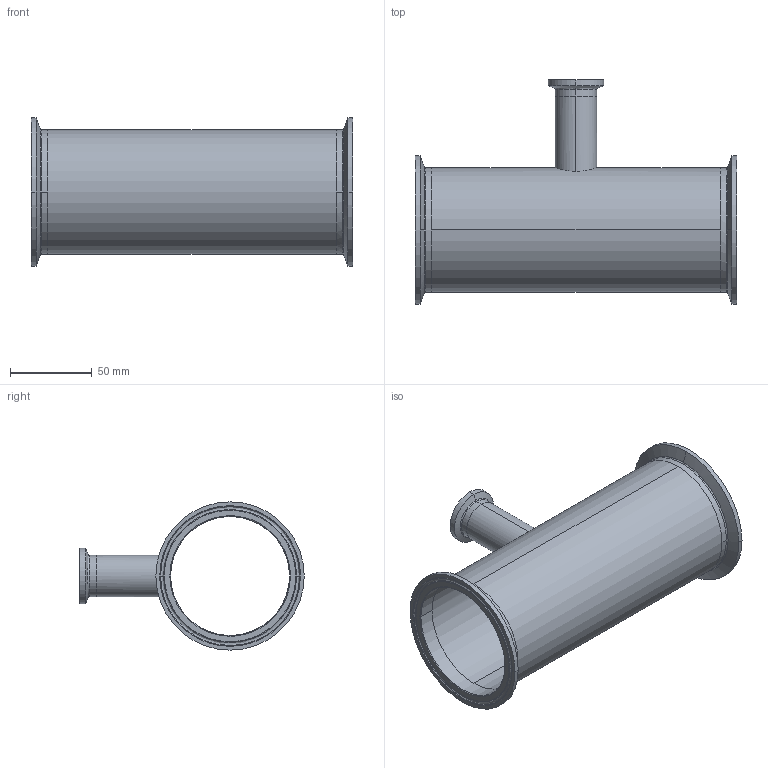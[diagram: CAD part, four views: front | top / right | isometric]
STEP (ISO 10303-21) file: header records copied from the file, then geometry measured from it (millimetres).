
FILE_DESCRIPTION (( 'STEP AP214' ), '1' );
FILE_NAME ('TEG7R6L3.0x1.0-..Type A.STEP', '2016-05-24T07:14:19', ( 'eran' ), ( '' ), 'SwSTEP 2.0', 'SolidWorks 2016', '' );
FILE_SCHEMA (( 'AUTOMOTIVE_DESIGN' ));
Length unit declared in the file: millimetre
Products named in the file (1): TEG7R6L3.0x1.0-..Type A
Bounding box: 196.8 x 137.55 x 90.91 mm (x, y, z)
Volume: 98795.7 mm3; surface area: 110306.2 mm2
Topology: 4 solids, 4 shells, 84 faces, 198 edges, 126 vertices
Faces by surface type: cylinder 28, bspline 28, cone 16, plane 12
Entity records: 4183 total; most frequent: CARTESIAN_POINT 2197, DIRECTION 426, ORIENTED_EDGE 396, EDGE_CURVE 198, AXIS2_PLACEMENT_3D 191, CIRCLE 134, VERTEX_POINT 126, EDGE_LOOP 98
